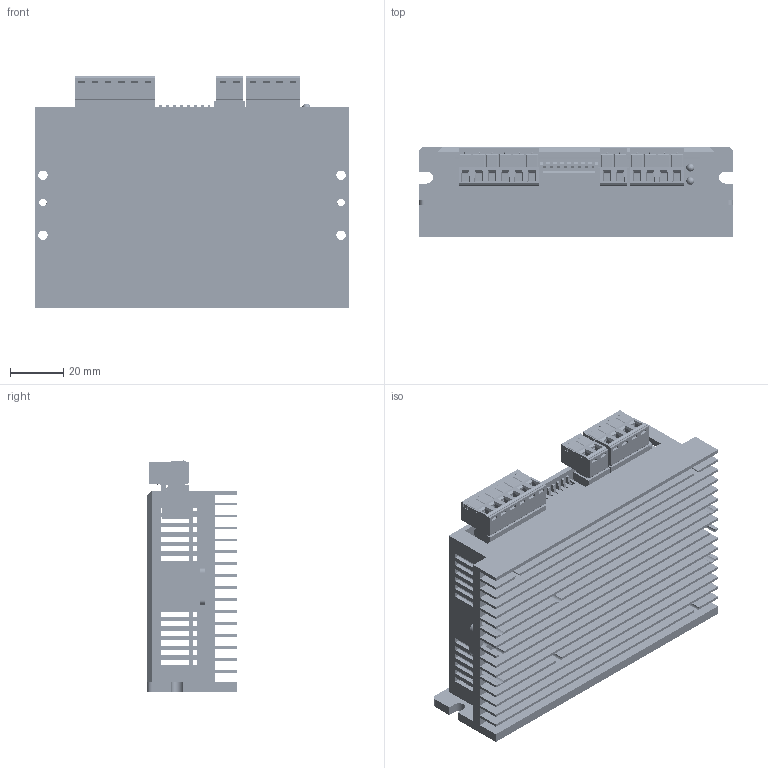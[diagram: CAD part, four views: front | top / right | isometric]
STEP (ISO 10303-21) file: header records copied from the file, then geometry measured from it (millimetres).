
FILE_DESCRIPTION((''),'2;1');
FILE_NAME('RT-ZP-R57-HV-H2_0_ASM','2024-09-02T14:35:09',('ruiwe'),(''),'CREO PARAMETRIC BY PTC INC, 2021063','CREO PARAMETRIC BY PTC INC, 2021063','');
FILE_SCHEMA(('CONFIG_CONTROL_DESIGN','SHAPE_APPEARANCE_LAYERS_GROUPS'));
Products named in the file (12): RT-DB-R57; RT-DLB-R57-HV-H2_0; RT-GZ-R57-HV-H2_0; PRT0001; RT-R57-00; GSP001RC-5_0-02P; GSP001R-5_0-04P; RT-R57-HV-LED; R57-HV-GSP001-5_0-02P; R57-HV-GSP001-5_0-04P; R57-HV-GSP001-5_0-06P; RT-ZP-R57-HV-H2_0_ASM
Assembly tree (11 placements, depth 2):
  RT-ZP-R57-HV-H2_0_ASM
    RT-DB-R57
    RT-DLB-R57-HV-H2_0
    RT-GZ-R57-HV-H2_0
    PRT0001
    RT-R57-00
    GSP001RC-5_0-02P
    GSP001R-5_0-04P
    RT-R57-HV-LED
    R57-HV-GSP001-5_0-02P
    R57-HV-GSP001-5_0-04P
    R57-HV-GSP001-5_0-06P
Bounding box: 118 x 34.01 x 86.83 mm (x, y, z)
Volume: 100691.8 mm3; surface area: 119204 mm2
Topology: 12 solids, 1395 shells, 5633 faces, 38581 edges, 34471 vertices
Faces by surface type: plane 4175, cylinder 841, bspline 331, torus 180, cone 102, sphere 4
Entity records: 471658 total; most frequent: CARTESIAN_POINT 166404, ORIENTED_EDGE 50149, EDGE_CURVE 38577, DIRECTION 35021, VERTEX_POINT 34471, VECTOR 20191, LINE 20191, B_SPLINE_CURVE_WITH_KNOTS 16300
